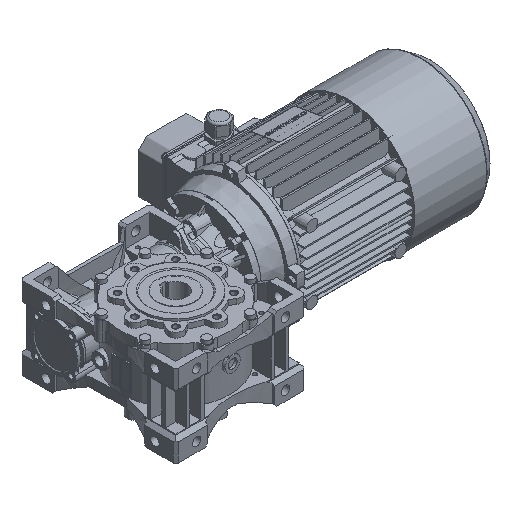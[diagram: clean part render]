
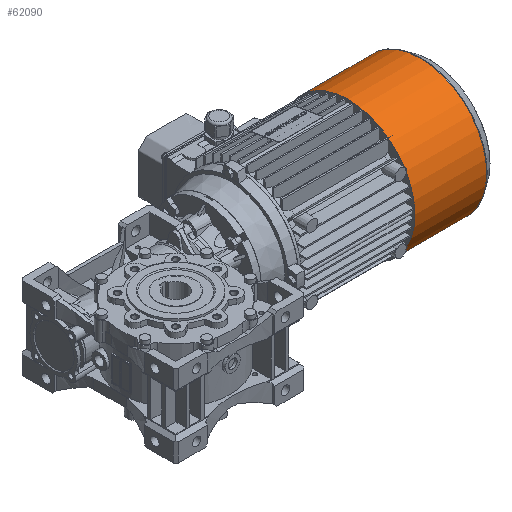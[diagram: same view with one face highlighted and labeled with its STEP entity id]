
A CAD part, isometric view. The second image highlights one B-rep face of the part: STEP entity #62090.
In plain terms, the highlighted cylindrical face has radius 105.2 mm (diameter 210.4 mm), a full revolution.
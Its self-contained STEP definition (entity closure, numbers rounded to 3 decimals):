
#2370=CYLINDRICAL_SURFACE('',#68779,105.2);
#30918=ORIENTED_EDGE('',*,*,#40007,.F.);
#30919=ORIENTED_EDGE('',*,*,#40006,.T.);
#40006=EDGE_CURVE('',#46094,#46094,#49198,.T.);
#40007=EDGE_CURVE('',#46095,#46095,#49199,.T.);
#46094=VERTEX_POINT('',#107642);
#46095=VERTEX_POINT('',#107645);
#49198=CIRCLE('',#68778,105.2);
#49199=CIRCLE('',#68780,105.2);
#53014=EDGE_LOOP('',(#30918));
#53015=EDGE_LOOP('',(#30919));
#56874=FACE_BOUND('',#53014,.T.);
#56875=FACE_BOUND('',#53015,.T.);
#62090=ADVANCED_FACE('',(#56874,#56875),#2370,.T.);
#68778=AXIS2_PLACEMENT_3D('',#107641,#87327,#87328);
#68779=AXIS2_PLACEMENT_3D('',#107643,#87329,#87330);
#68780=AXIS2_PLACEMENT_3D('',#107644,#87331,#87332);
#87327=DIRECTION('',(1.,0.,0.));
#87328=DIRECTION('',(0.,0.,-1.));
#87329=DIRECTION('',(1.,0.,0.));
#87330=DIRECTION('',(0.,0.,-1.));
#87331=DIRECTION('',(1.,0.,0.));
#87332=DIRECTION('',(0.,0.,-1.));
#107641=CARTESIAN_POINT('',(0.,0.,0.));
#107642=CARTESIAN_POINT('',(0.,0.,-105.2));
#107643=CARTESIAN_POINT('',(130.,0.,0.));
#107644=CARTESIAN_POINT('',(113.374,0.,0.));
#107645=CARTESIAN_POINT('',(113.374,0.,-105.2));
